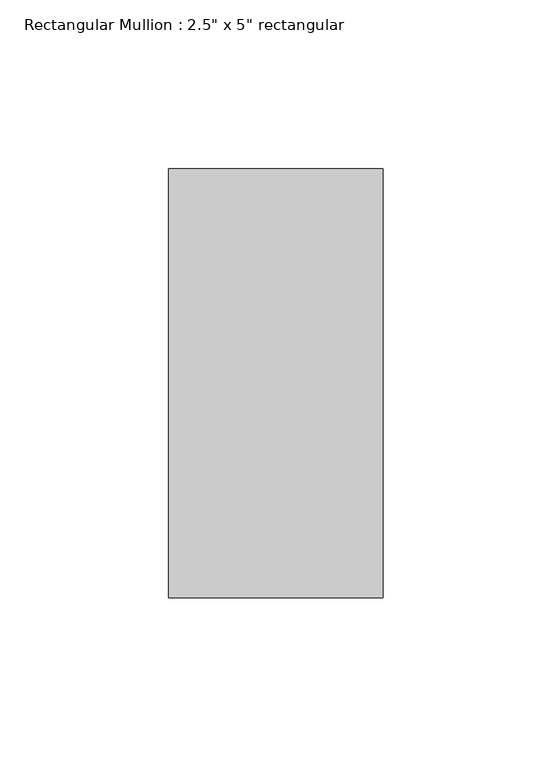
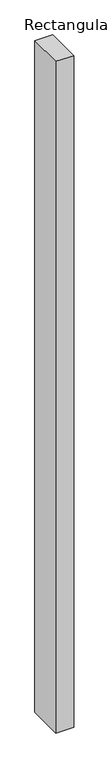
"""IFC4 building model written with IfcOpenShell, lengths in millimetres: member geometry."""

from ifc_helpers import new_model, si_unit, frame, origin, place, context, project, spatial, polyline, outline, extrude, source, transform, mapped, element, save


def member_7d476428(model_context):
    return source(origin(), model_context, "Body", "SweptSolid", [
        extrude(outline(polyline([(31.75, 63.5), (31.75, -63.5), (-31.75, -63.5), (-31.75, 63.5), (31.75, 63.5)])), frame((0.0, 0.0, -2507.9510798), z_axis=(0.0, 0.0, 1.0), x_axis=(1.0, 0.0, 0.0)), (0.0, 0.0, 1.0), 2507.9510798),
    ])


if __name__ == "__main__":
    model = new_model("IFC4")
    model_context = context("Model", 3, world=origin())
    ifc_project = project(units=[si_unit("LENGTHUNIT", "METRE", prefix="MILLI")], contexts=[model_context])
    site = spatial("IfcSite", under=ifc_project)
    building = spatial("IfcBuilding", under=site)
    placement = place(None, origin())
    member_shape = member_7d476428(model_context)
    element("IfcMember", 1, ObjectType="Rectangular Mullion : 2.5\" x 5\" rectangular", at=placement, inside=building, context=model_context, shape_type="MappedRepresentation", body=[
        mapped(member_shape, transform((0.0, 0.0, 0.0), x_axis=(1.0, 0.0, 0.0), y_axis=(0.0, 1.0, 0.0), z_axis=(0.0, 0.0, 1.0))),
    ])
    save(model, "model.ifc")
